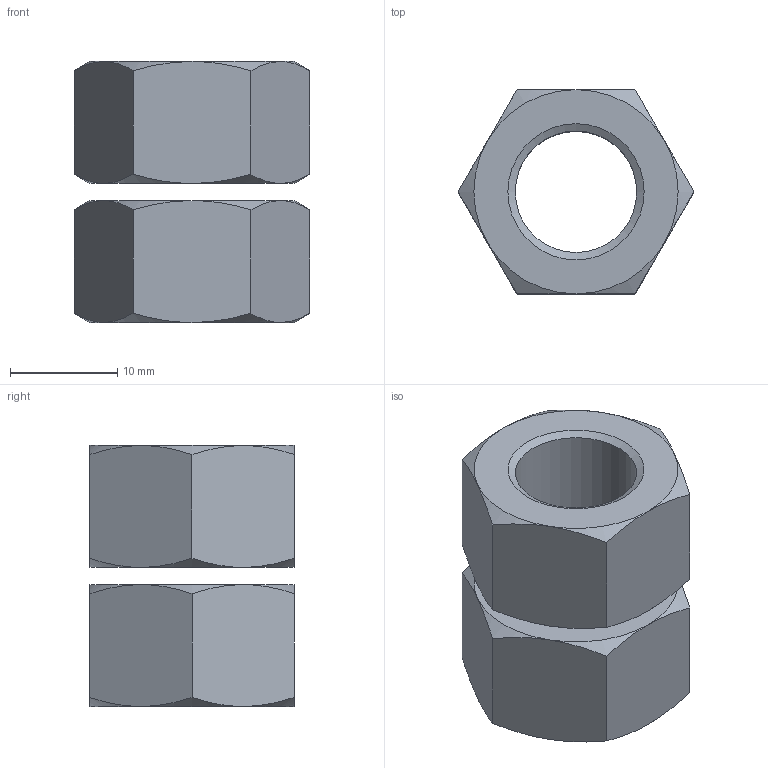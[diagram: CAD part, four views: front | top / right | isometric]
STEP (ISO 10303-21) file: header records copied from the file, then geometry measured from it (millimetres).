
FILE_DESCRIPTION(/* description */ (''),/* implementation_level */ '2;1');
FILE_NAME(/* name */ 'F:\GH SERIES\GH-750-X-XXXX\GH-750-X-050\GH-750-X-050 ASS''Y.iam.stp',/* time_stamp */ '2021-11-17T12:40:59-05:00',/* author */ ('Justin'),/* organization */ (''),/* preprocessor_version */ 'ST-DEVELOPER v18.1',/* originating_system */ 'Autodesk Inventor 2022',/* authorisation */ '');
FILE_SCHEMA (('AUTOMOTIVE_DESIGN { 1 0 10303 214 3 1 1 }'));
Length unit declared in the file: inch
Products named in the file (2): GH-750-D-050 ASS'Y; AS 2465 - 1/2  UNF
Assembly tree (2 placements, depth 2):
  GH-750-D-050 ASS'Y
    AS 2465 - 1/2  UNF  x2
Bounding box: 22 x 19.05 x 24.35 mm (x, y, z)
Volume: 4808.5 mm3; surface area: 3066.4 mm2
Topology: 2 solids, 2 shells, 46 faces, 100 edges, 58 vertices
Faces by surface type: cone 28, plane 16, cylinder 2
Full cylindrical faces by diameter (mm): 11.328 x2
Entity records: 676 total; most frequent: CARTESIAN_POINT 154, ORIENTED_EDGE 100, DIRECTION 97, EDGE_CURVE 50, AXIS2_PLACEMENT_3D 44, VERTEX_POINT 29, EDGE_LOOP 25, FACE_OUTER_BOUND 23
